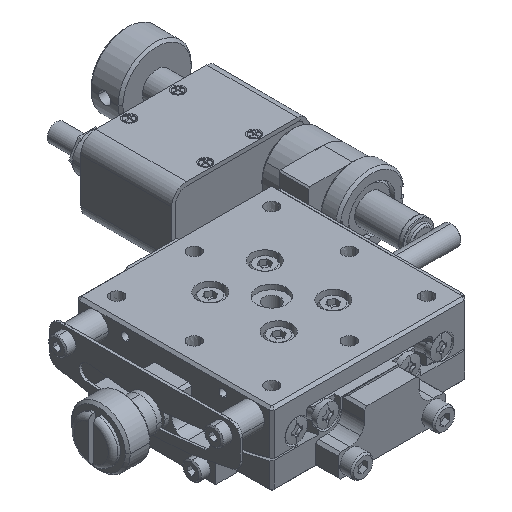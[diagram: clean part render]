
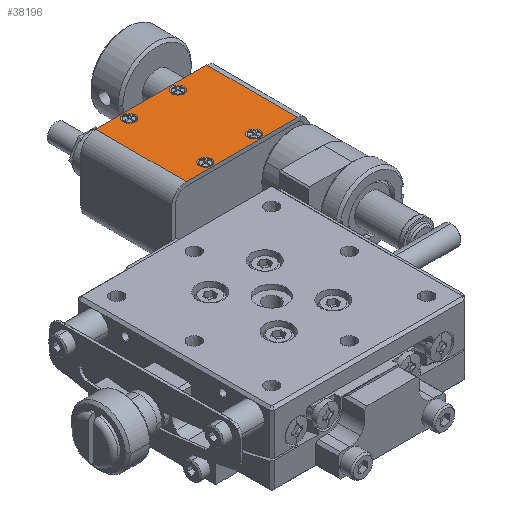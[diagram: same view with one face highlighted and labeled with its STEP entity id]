
A CAD part, isometric view. The second image highlights one B-rep face of the part: STEP entity #38196.
In plain terms, the highlighted planar face has unit normal (0, 0, 1).
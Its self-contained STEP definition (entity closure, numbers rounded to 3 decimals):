
#2119 = EDGE_CURVE ( 'NONE', #44738, #54316, #33808, .T. ) ;
#2292 = DIRECTION ( 'NONE',  ( 0., -1., 0. ) ) ;
#2806 = EDGE_CURVE ( 'NONE', #5779, #38693, #12416, .T. ) ;
#3058 = FACE_BOUND ( 'NONE', #38182, .T. ) ;
#3141 = CARTESIAN_POINT ( 'NONE',  ( -103.498, -18.826, -48.253 ) ) ;
#3299 = CARTESIAN_POINT ( 'NONE',  ( -94.853, -35.926, -48.253 ) ) ;
#3590 = DIRECTION ( 'NONE',  ( -1., 0., 0. ) ) ;
#4304 = VERTEX_POINT ( 'NONE', #24817 ) ;
#5779 = VERTEX_POINT ( 'NONE', #3141 ) ;
#6486 = DIRECTION ( 'NONE',  ( 0., 0., 1. ) ) ;
#7029 = CARTESIAN_POINT ( 'NONE',  ( -102.248, -34.426, -48.253 ) ) ;
#7213 = EDGE_CURVE ( 'NONE', #54316, #44738, #24946, .T. ) ;
#7678 = VECTOR ( 'NONE', #38791, 1000. ) ;
#8145 = ORIENTED_EDGE ( 'NONE', *, *, #43951, .F. ) ;
#9023 = EDGE_CURVE ( 'NONE', #49618, #52503, #16057, .T. ) ;
#9387 = EDGE_CURVE ( 'NONE', #22620, #26884, #14198, .T. ) ;
#10789 = CARTESIAN_POINT ( 'NONE',  ( -100.998, -18.826, -48.253 ) ) ;
#11322 = VERTEX_POINT ( 'NONE', #20068 ) ;
#12234 = LINE ( 'NONE', #34580, #7678 ) ;
#12416 = CIRCLE ( 'NONE', #54442, 1.25 ) ;
#12421 = DIRECTION ( 'NONE',  ( -1., 0., 0. ) ) ;
#12666 = DIRECTION ( 'NONE',  ( -1., 0., 0. ) ) ;
#12951 = CIRCLE ( 'NONE', #32559, 1.25 ) ;
#13200 = CARTESIAN_POINT ( 'NONE',  ( -102.248, -34.426, -48.253 ) ) ;
#13963 = CARTESIAN_POINT ( 'NONE',  ( -117.648, -17.326, -48.253 ) ) ;
#14198 = CIRCLE ( 'NONE', #20420, 1.25 ) ;
#15008 = DIRECTION ( 'NONE',  ( -1., 0., 0. ) ) ;
#15022 = ORIENTED_EDGE ( 'NONE', *, *, #39712, .F. ) ;
#15743 = ORIENTED_EDGE ( 'NONE', *, *, #17942, .F. ) ;
#15915 = ORIENTED_EDGE ( 'NONE', *, *, #41491, .F. ) ;
#16057 = CIRCLE ( 'NONE', #16979, 1.25 ) ;
#16490 = FACE_BOUND ( 'NONE', #31586, .T. ) ;
#16621 = DIRECTION ( 'NONE',  ( 0., 0., 1. ) ) ;
#16977 = AXIS2_PLACEMENT_3D ( 'NONE', #38600, #33555, #50654 ) ;
#16979 = AXIS2_PLACEMENT_3D ( 'NONE', #35984, #48862, #15008 ) ;
#17670 = DIRECTION ( 'NONE',  ( 0., 0., 1. ) ) ;
#17848 = CARTESIAN_POINT ( 'NONE',  ( -113.498, -18.826, -48.253 ) ) ;
#17942 = EDGE_CURVE ( 'NONE', #53819, #11322, #51827, .T. ) ;
#18115 = DIRECTION ( 'NONE',  ( 0., 0., 1. ) ) ;
#20068 = CARTESIAN_POINT ( 'NONE',  ( -117.648, -35.926, -48.253 ) ) ;
#20376 = CARTESIAN_POINT ( 'NONE',  ( -102.248, -35.676, -48.253 ) ) ;
#20420 = AXIS2_PLACEMENT_3D ( 'NONE', #26914, #17670, #48433 ) ;
#20557 = CARTESIAN_POINT ( 'NONE',  ( -102.248, -18.826, -48.253 ) ) ;
#20899 = CIRCLE ( 'NONE', #28921, 1.25 ) ;
#21525 = VERTEX_POINT ( 'NONE', #26858 ) ;
#22215 = VECTOR ( 'NONE', #29061, 1000. ) ;
#22620 = VERTEX_POINT ( 'NONE', #39643 ) ;
#22934 = ORIENTED_EDGE ( 'NONE', *, *, #34454, .T. ) ;
#24337 = FACE_BOUND ( 'NONE', #36699, .T. ) ;
#24593 = LINE ( 'NONE', #3299, #22215 ) ;
#24817 = CARTESIAN_POINT ( 'NONE',  ( -117.648, -17.326, -48.253 ) ) ;
#24940 = AXIS2_PLACEMENT_3D ( 'NONE', #7029, #6486, #2292 ) ;
#24946 = CIRCLE ( 'NONE', #49176, 1.25 ) ;
#25012 = ORIENTED_EDGE ( 'NONE', *, *, #26579, .F. ) ;
#25931 = ORIENTED_EDGE ( 'NONE', *, *, #9023, .F. ) ;
#26114 = ORIENTED_EDGE ( 'NONE', *, *, #7213, .F. ) ;
#26294 = LINE ( 'NONE', #13963, #33114 ) ;
#26579 = EDGE_CURVE ( 'NONE', #38693, #5779, #41088, .T. ) ;
#26858 = CARTESIAN_POINT ( 'NONE',  ( -94.853, -17.326, -48.253 ) ) ;
#26884 = VERTEX_POINT ( 'NONE', #17848 ) ;
#26914 = CARTESIAN_POINT ( 'NONE',  ( -112.248, -18.826, -48.253 ) ) ;
#28361 = EDGE_LOOP ( 'NONE', ( #45823, #22934, #8145, #15743 ) ) ;
#28802 = FACE_OUTER_BOUND ( 'NONE', #28361, .T. ) ;
#28921 = AXIS2_PLACEMENT_3D ( 'NONE', #47766, #18115, #35147 ) ;
#29061 = DIRECTION ( 'NONE',  ( 0., -1., 0. ) ) ;
#31586 = EDGE_LOOP ( 'NONE', ( #26114, #53147 ) ) ;
#31836 = ORIENTED_EDGE ( 'NONE', *, *, #9387, .F. ) ;
#32559 = AXIS2_PLACEMENT_3D ( 'NONE', #55358, #41923, #3590 ) ;
#32705 = PLANE ( 'NONE',  #46896 ) ;
#33114 = VECTOR ( 'NONE', #43356, 1000. ) ;
#33132 = CARTESIAN_POINT ( 'NONE',  ( -113.498, -34.426, -48.253 ) ) ;
#33334 = CARTESIAN_POINT ( 'NONE',  ( -110.998, -34.426, -48.253 ) ) ;
#33555 = DIRECTION ( 'NONE',  ( 0., 0., 1. ) ) ;
#33808 = CIRCLE ( 'NONE', #24940, 1.25 ) ;
#34454 = EDGE_CURVE ( 'NONE', #21525, #4304, #26294, .T. ) ;
#34578 = ORIENTED_EDGE ( 'NONE', *, *, #2806, .F. ) ;
#34580 = CARTESIAN_POINT ( 'NONE',  ( -117.648, -35.926, -48.253 ) ) ;
#35147 = DIRECTION ( 'NONE',  ( -1., 0., 0. ) ) ;
#35291 = CARTESIAN_POINT ( 'NONE',  ( -102.248, -33.176, -48.253 ) ) ;
#35984 = CARTESIAN_POINT ( 'NONE',  ( -112.248, -34.426, -48.253 ) ) ;
#36699 = EDGE_LOOP ( 'NONE', ( #15915, #31836 ) ) ;
#37191 = DIRECTION ( 'NONE',  ( 0., -1., 0. ) ) ;
#38014 = DIRECTION ( 'NONE',  ( 0., 0., -1. ) ) ;
#38182 = EDGE_LOOP ( 'NONE', ( #15022, #25931 ) ) ;
#38196 = ADVANCED_FACE ( 'NONE', ( #28802, #24337, #54827, #3058, #16490 ), #32705, .F. ) ;
#38600 = CARTESIAN_POINT ( 'NONE',  ( -102.248, -18.826, -48.253 ) ) ;
#38693 = VERTEX_POINT ( 'NONE', #10789 ) ;
#38791 = DIRECTION ( 'NONE',  ( 0., 1., 0. ) ) ;
#39643 = CARTESIAN_POINT ( 'NONE',  ( -110.998, -18.826, -48.253 ) ) ;
#39712 = EDGE_CURVE ( 'NONE', #52503, #49618, #20899, .T. ) ;
#41088 = CIRCLE ( 'NONE', #16977, 1.25 ) ;
#41491 = EDGE_CURVE ( 'NONE', #26884, #22620, #12951, .T. ) ;
#41923 = DIRECTION ( 'NONE',  ( 0., 0., 1. ) ) ;
#42307 = DIRECTION ( 'NONE',  ( 0., -1., 0. ) ) ;
#43356 = DIRECTION ( 'NONE',  ( -1., 0., 0. ) ) ;
#43951 = EDGE_CURVE ( 'NONE', #11322, #4304, #12234, .T. ) ;
#44498 = VECTOR ( 'NONE', #12666, 1000. ) ;
#44738 = VERTEX_POINT ( 'NONE', #35291 ) ;
#45823 = ORIENTED_EDGE ( 'NONE', *, *, #46255, .F. ) ;
#46255 = EDGE_CURVE ( 'NONE', #21525, #53819, #24593, .T. ) ;
#46872 = EDGE_LOOP ( 'NONE', ( #34578, #25012 ) ) ;
#46896 = AXIS2_PLACEMENT_3D ( 'NONE', #54551, #38014, #37191 ) ;
#47051 = DIRECTION ( 'NONE',  ( 0., 0., 1. ) ) ;
#47766 = CARTESIAN_POINT ( 'NONE',  ( -112.248, -34.426, -48.253 ) ) ;
#48433 = DIRECTION ( 'NONE',  ( -1., 0., 0. ) ) ;
#48862 = DIRECTION ( 'NONE',  ( 0., 0., 1. ) ) ;
#49176 = AXIS2_PLACEMENT_3D ( 'NONE', #13200, #47051, #42307 ) ;
#49618 = VERTEX_POINT ( 'NONE', #33334 ) ;
#50654 = DIRECTION ( 'NONE',  ( -1., 0., 0. ) ) ;
#51008 = CARTESIAN_POINT ( 'NONE',  ( -117.648, -35.926, -48.253 ) ) ;
#51827 = LINE ( 'NONE', #51008, #44498 ) ;
#52503 = VERTEX_POINT ( 'NONE', #33132 ) ;
#53147 = ORIENTED_EDGE ( 'NONE', *, *, #2119, .F. ) ;
#53819 = VERTEX_POINT ( 'NONE', #54357 ) ;
#54316 = VERTEX_POINT ( 'NONE', #20376 ) ;
#54357 = CARTESIAN_POINT ( 'NONE',  ( -94.853, -35.926, -48.253 ) ) ;
#54442 = AXIS2_PLACEMENT_3D ( 'NONE', #20557, #16621, #12421 ) ;
#54551 = CARTESIAN_POINT ( 'NONE',  ( -94.853, -35.926, -48.253 ) ) ;
#54827 = FACE_BOUND ( 'NONE', #46872, .T. ) ;
#55358 = CARTESIAN_POINT ( 'NONE',  ( -112.248, -18.826, -48.253 ) ) ;
